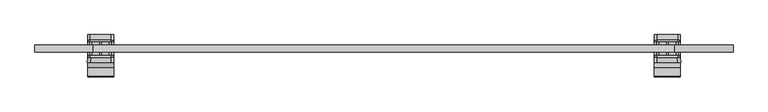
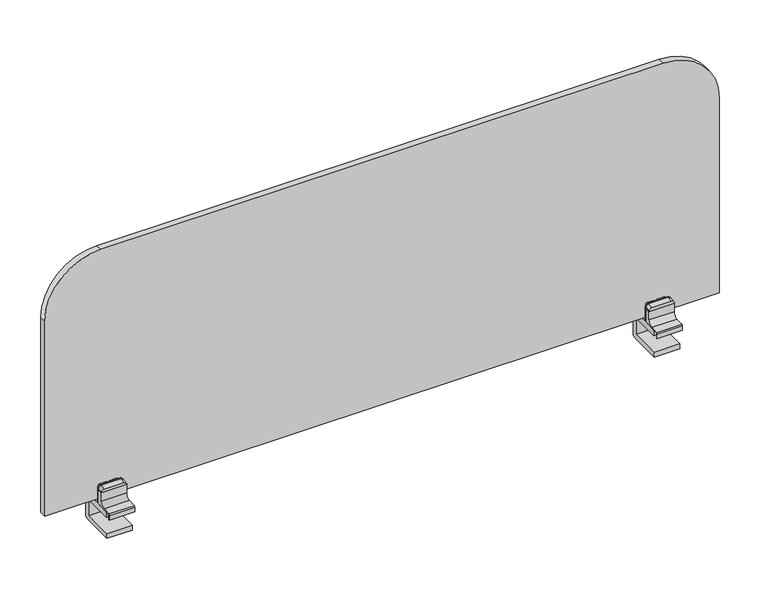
"""IFC4 building model written with IfcOpenShell, lengths in millimetres: furniture geometry, Logos Echopanel Screen_Type 1 : Logos Echopanel Screen_Type 1."""

from ifc_helpers import new_model, si_unit, point, frame, frame_2d, origin, place, context, project, spatial, polyline, circle_curve, trimmed, segment, composite_curve, outline, extrude, source, transform, mapped, element, save
from ifc_brep_helpers import plane_surface, cylinder_surface, spline_surface, advanced_brep


def furniture_f6a1e811(model_context):
    return source(origin(), model_context, "Body", "SolidModel", [
        extrude(outline(composite_curve([segment(polyline([(52.0000237, 489.1498688), (52.0000237, 505.4500366), (75.0151085, 505.4500366)]), True, "CONTINUOUS"), segment(trimmed(circle_curve(frame_2d((75.0151085, 501.4651707)), 3.9848659), [point((75.0151085, 505.4500366))], [point((78.9999744, 501.4651707))], False, "CARTESIAN"), True, "CONTINUOUS"), segment(polyline([(78.9999744, 501.4651707), (78.9999744, 489.1498688), (52.0000237, 489.1498688)]), True, "CONTINUOUS")], self_intersect=False)), frame((0.0, 2.9998169, 0.0), z_axis=(0.0, 1.0, 0.0), x_axis=(0.0, 0.0, 1.0)), (0.0, 0.0, 1.0), 6.0007965),
        extrude(outline(composite_curve([segment(polyline([(52.0000237, 484.8501312), (78.9999744, 484.8501312), (78.9999744, 472.5357586)]), True, "CONTINUOUS"), segment(trimmed(circle_curve(frame_2d((75.0141792, 472.5357586)), 3.9857953), [point((78.9999744, 472.5357586))], [point((75.0141792, 468.5499634))], False, "CARTESIAN"), True, "CONTINUOUS"), segment(polyline([(75.0141792, 468.5499634), (52.0000237, 468.5499634), (52.0000237, 484.8501312)]), True, "CONTINUOUS")], self_intersect=False)), frame((0.0, 2.9998169, 0.0), z_axis=(0.0, 1.0, 0.0), x_axis=(0.0, 0.0, 1.0)), (0.0, 0.0, 1.0), 6.0007965),
        extrude(outline(composite_curve([segment(polyline([(52.0000237, 489.1498688), (52.0000237, 505.4500366), (75.0151085, 505.4500366)]), True, "CONTINUOUS"), segment(trimmed(circle_curve(frame_2d((75.0151085, 501.4651707)), 3.9848659), [point((75.0151085, 505.4500366))], [point((78.9999744, 501.4651707))], False, "CARTESIAN"), True, "CONTINUOUS"), segment(polyline([(78.9999744, 501.4651707), (78.9999744, 489.1498688), (52.0000237, 489.1498688)]), True, "CONTINUOUS")], self_intersect=False)), frame((0.0, 20.999881, 0.0), z_axis=(0.0, 1.0, 0.0), x_axis=(0.0, 0.0, 1.0)), (0.0, 0.0, 1.0), 6.0007965),
        extrude(outline(composite_curve([segment(polyline([(52.0000237, 484.8501312), (78.9999744, 484.8501312), (78.9999744, 472.5357586)]), True, "CONTINUOUS"), segment(trimmed(circle_curve(frame_2d((75.0141792, 472.5357586)), 3.9857953), [point((78.9999744, 472.5357586))], [point((75.0141792, 468.5499634))], False, "CARTESIAN"), True, "CONTINUOUS"), segment(polyline([(75.0141792, 468.5499634), (52.0000237, 468.5499634), (52.0000237, 484.8501312)]), True, "CONTINUOUS")], self_intersect=False)), frame((0.0, 20.999881, 0.0), z_axis=(0.0, 1.0, 0.0), x_axis=(0.0, 0.0, 1.0)), (0.0, 0.0, 1.0), 6.0007965),
        extrude(outline(composite_curve([segment(trimmed(circle_curve(frame_2d((77.9712419, 469.2789322)), 4.0287674), [point((82.0000093, 469.2789322))], [point((77.9712419, 465.2501648))], False, "CARTESIAN"), True, "CONTINUOUS"), segment(polyline([(77.9712419, 465.2501648), (52.0000237, 465.2501648), (52.0000237, 508.7498352), (77.9724863, 508.7498352)]), True, "CONTINUOUS"), segment(trimmed(circle_curve(frame_2d((77.9724863, 504.7223122)), 4.0275231), [point((77.9724863, 508.7498352))], [point((82.0000093, 504.7223122))], False, "CARTESIAN"), True, "CONTINUOUS"), segment(polyline([(82.0000093, 504.7223122), (82.0000093, 469.2789322)]), True, "CONTINUOUS")], self_intersect=False)), frame((0.0, 0.0, 0.0), z_axis=(0.0, 1.0, 0.0), x_axis=(0.0, 0.0, 1.0)), (0.0, 0.0, 1.0), 2.9998169),
        extrude(outline(composite_curve([segment(trimmed(circle_curve(frame_2d((77.9712419, 469.2789322)), 4.0287674), [point((82.0000093, 469.2789322))], [point((77.9712419, 465.2501648))], False, "CARTESIAN"), True, "CONTINUOUS"), segment(polyline([(77.9712419, 465.2501648), (52.0000237, 465.2501648), (52.0000237, 508.7498352), (77.9724863, 508.7498352)]), True, "CONTINUOUS"), segment(trimmed(circle_curve(frame_2d((77.9724863, 504.7223122)), 4.0275231), [point((77.9724863, 508.7498352))], [point((82.0000093, 504.7223122))], False, "CARTESIAN"), True, "CONTINUOUS"), segment(polyline([(82.0000093, 504.7223122), (82.0000093, 469.2789322)]), True, "CONTINUOUS")], self_intersect=False)), frame((0.0, 27.0006775, 0.0), z_axis=(0.0, 1.0, 0.0), x_axis=(0.0, 0.0, 1.0)), (0.0, 0.0, 1.0), 2.9998169),
        advanced_brep(
        [(464.5002106, 0.0, 77.500284), (469.4999054, 0.0, 82.4999788), (504.3790264, 0.0, 82.4999788), (509.5009521, 0.0, 77.3780531), (509.5009521, 0.0, 75.3780298), (464.5002106, 0.0, 75.3780298), (464.5002106, -8.9994507, 75.3780298), (509.622093, -8.9994507, 75.3780298), (504.5000946, -8.9994507, 80.5000282), (469.622209, -8.9994507, 80.5000282)],
        [
            (0, 1, circle_curve(frame((469.4999054, 0.0, 77.500284), z_axis=(0.0, 1.0, 0.0), x_axis=(0.0, 0.0, 1.0)), 4.9996948)),
            (1, 2),
            (2, 3, circle_curve(frame((504.3790264, 0.0, 77.3780531), z_axis=(0.0, 1.0, 0.0), x_axis=(0.0, 0.0, 1.0)), 5.1219257)),
            (3, 4),
            (4, 5),
            (5, 0),
            (6, 7),
            (7, 8, circle_curve(frame((504.5000946, -8.9994507, 75.3780298), z_axis=(0.0, -1.0, 0.0), x_axis=(0.0, 0.0, 1.0)), 5.1219984)),
            (8, 9),
            (9, 6, circle_curve(frame((469.622209, -8.9994507, 75.3780298), z_axis=(0.0, -1.0, 0.0), x_axis=(0.0, 0.0, 1.0)), 5.1219984)),
            (5, 6),
            (6, 0),
            (4, 7),
            (3, 7),
            (2, 8),
            (1, 9),
        ],
        [
            plane_surface(frame((486.9802095, 0.0, 78.4390591), z_axis=(0.0, 1.0, 0.0), x_axis=(1.0, 0.0, 0.0))),
            plane_surface(frame((487.0611518, -8.9994507, 77.939029), z_axis=(0.0, -1.0, 0.0), x_axis=(1.0, 0.0, 0.0))),
            plane_surface(frame((464.5002106, -8.9994507, 75.3780298), z_axis=(-1.0, 0.0, 0.0), x_axis=(0.0, 0.0, -1.0))),
            plane_surface(frame((487.0611518, -8.9994507, 75.3780298), z_axis=(0.0, 0.0, -1.0), x_axis=(1.0, 0.0, 0.0))),
            plane_surface(frame((509.622093, -8.9994507, 75.3780298), z_axis=(0.9999094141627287, 0.013459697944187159, 0.0), x_axis=(0.0, 0.0, 1.0))),
            spline_surface(1, 2, [[(509.622093, -8.9994507, 75.3780298), (509.622093, -8.9994507, 80.50002819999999), (504.5000946, -8.9994507, 80.5000282)], [(509.5009521, 0.0, 77.3780531), (509.5009521, 0.0, 82.49997880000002), (504.3790264, 0.0, 82.4999788)]], [2, 2], [3, 3], [0.0, 1.0], [0.0, 1.0], weights=[[1.0, 0.7071067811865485, 1.0], [1.0, 0.7071067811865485, 1.0]]),
            plane_surface(frame((487.0611518, -8.9994507, 80.5000282), z_axis=(0.0, -0.21693796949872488, 0.9761853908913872), x_axis=(-1.0, 0.0, 0.0))),
            spline_surface(1, 2, [[(469.622209, -8.9994507, 80.5000282), (464.5002106, -8.9994507, 80.50002820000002), (464.5002106, -8.9994507, 75.3780298)], [(469.4999054, 0.0, 82.4999788), (464.5002106, 0.0, 82.49997880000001), (464.5002106, 0.0, 77.500284)]], [2, 2], [3, 3], [0.0, 1.0], [0.0, 1.0], weights=[[1.0, 0.7071067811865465, 1.0], [1.0, 0.7071067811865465, 1.0]]),
        ],
        [
            (0, [[1, 2, 3, 4, 5, 6]]),
            (1, [[7, 8, 9, 10]]),
            (2, [[11, 12, -6]]),
            (3, [[-11, -5, 13, -7]]),
            (4, [[14, -13, -4]]),
            (5, [[-14, -3, 15, -8]]),
            (6, [[-15, -2, 16, -9]]),
            (7, [[-16, -1, -12, -10]]),
        ],
    ),
        extrude(outline(composite_curve([segment(polyline([(0.0, 50.7870163), (-32.4991791, 48.4655726), (-32.4991791, 39.0037966), (-33.499118, 39.0037966), (-33.499118, 47.5292846)]), True, "CONTINUOUS"), segment(trimmed(circle_curve(frame_2d((-31.4934974, 47.5292846)), 2.0056206), [point((-33.499118, 47.5292846))], [point((-31.6363818, 49.529809))], False, "CARTESIAN"), True, "CONTINUOUS"), segment(polyline([(-31.6363818, 49.529809), (-17.3395026, 50.550942)]), True, "CONTINUOUS"), segment(trimmed(circle_curve(frame_2d((-17.9792408, 59.507915)), 8.9797902), [point((-17.3395026, 50.550942))], [point((-8.9994507, 59.507915))], True, "CARTESIAN"), True, "CONTINUOUS"), segment(polyline([(-8.9994507, 59.507915), (-8.9994507, 75.3780298), (0.0, 75.3780298), (0.0, 50.7870163)]), True, "CONTINUOUS")], self_intersect=False)), frame((464.5002106, 0.0, 0.0), z_axis=(1.0, 0.0, 0.0), x_axis=(0.0, 1.0, 0.0)), (0.0, 0.0, 1.0), 45.0007416),
        advanced_brep(
        [(464.5002106, 30.0004944, 52.0000237), (464.5002106, 30.0004944, 77.6069537), (464.5002106, 38.9999451, 77.6069537), (464.5002106, 38.9999451, 2.0000233), (464.5002106, 30.0004944, 0.0), (464.5002106, -25.9995758, 0.0), (464.5002106, -25.9995758, 9.000032), (464.5002106, 30.0004944, 9.000032), (464.5002106, 30.0004944, 39.0000177), (464.5002106, -23.9996979, 39.0000177), (464.5002106, -23.9996979, 47.9999771), (509.5009521, 38.9999451, 2.0000233), (509.5009521, 38.9999451, 77.4991213), (509.5009521, 30.0004944, 77.4991213), (509.5009521, 30.0004944, 52.0000237), (509.5009521, -23.9996979, 47.9999771), (509.5009521, -23.9996979, 39.0000177), (509.5009521, 30.0004944, 39.0000177), (509.5009521, 30.0004944, 9.000032), (509.5009521, -25.9995758, 9.000032), (509.5009521, -25.9995758, 0.0), (509.5009521, 30.0004944, 0.0), (469.4999054, 38.9999451, 82.4999788), (469.4999054, 30.0004944, 82.4999788), (504.5000946, 30.0004944, 82.4999788), (504.5000946, 38.9999451, 82.4999788)],
        [
            (0, 1),
            (1, 2),
            (2, 3),
            (3, 4),
            (4, 5),
            (5, 6),
            (6, 7),
            (7, 8),
            (8, 9),
            (9, 10),
            (10, 0),
            (11, 12),
            (12, 13),
            (13, 14),
            (14, 15),
            (15, 16),
            (16, 17),
            (17, 18),
            (18, 19),
            (19, 20),
            (20, 21),
            (21, 11),
            (22, 23),
            (23, 24),
            (24, 25),
            (25, 22),
            (13, 24, circle_curve(frame((504.5000946, 30.0004944, 77.4991213), z_axis=(0.0, -1.0, 0.0), x_axis=(-1.0, 0.0, 0.0)), 5.0008575)),
            (23, 1, circle_curve(frame((469.4999054, 30.0004944, 77.4991213), z_axis=(0.0, -1.0, 0.0), x_axis=(-1.0, 0.0, 0.0)), 5.0008575)),
            (0, 14),
            (10, 15),
            (9, 16),
            (8, 17),
            (7, 18),
            (6, 19),
            (5, 20),
            (4, 21),
            (3, 11),
            (2, 22, circle_curve(frame((469.4999054, 38.9999451, 77.4991213), z_axis=(0.0, 1.0, 0.0), x_axis=(-1.0, 0.0, 0.0)), 5.0008575)),
            (25, 12, circle_curve(frame((504.5000946, 38.9999451, 77.4991213), z_axis=(0.0, 1.0, 0.0), x_axis=(-1.0, 0.0, 0.0)), 5.0008575)),
        ],
        [
            plane_surface(frame((464.5002106, 30.0004944, 82.4999788), z_axis=(-1.0, 0.0, 0.0), x_axis=(0.0, -1.0, 0.0))),
            plane_surface(frame((509.5009521, 30.0004944, 82.4999788), z_axis=(1.0, 0.0, 0.0), x_axis=(0.0, 1.0, 0.0))),
            plane_surface(frame((464.5002106, 38.9999451, 82.4999788), z_axis=(0.0, 0.0, 1.0), x_axis=(1.0, 0.0, 0.0))),
            plane_surface(frame((464.5002106, 30.0004944, 82.4999788), z_axis=(0.0, -1.0, 0.0), x_axis=(1.0, 0.0, 0.0))),
            plane_surface(frame((464.5002106, 30.0004944, 52.0000237), z_axis=(0.0, -0.07387227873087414, 0.9972677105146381), x_axis=(1.0, 0.0, 0.0))),
            plane_surface(frame((464.5002106, -23.9996979, 47.9999771), z_axis=(0.0, -1.0, 0.0), x_axis=(1.0, 0.0, 0.0))),
            plane_surface(frame((464.5002106, -23.9996979, 39.0000177), z_axis=(0.0, 0.0, -1.0), x_axis=(1.0, 0.0, 0.0))),
            plane_surface(frame((464.5002106, 30.0004944, 39.0000177), z_axis=(0.0, -1.0, 0.0), x_axis=(1.0, 0.0, 0.0))),
            plane_surface(frame((464.5002106, 30.0004944, 9.000032), z_axis=(0.0, 0.0, 1.0), x_axis=(1.0, 0.0, 0.0))),
            plane_surface(frame((464.5002106, -25.9995758, 9.000032), z_axis=(0.0, -1.0, 0.0), x_axis=(1.0, 0.0, 0.0))),
            plane_surface(frame((464.5002106, -25.9995758, 0.0), z_axis=(0.0, 0.0, -1.0), x_axis=(1.0, 0.0, 0.0))),
            plane_surface(frame((464.5002106, 30.0004944, 0.0), z_axis=(0.0, 0.216945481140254, -0.97618372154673), x_axis=(1.0, 0.0, 0.0))),
            plane_surface(frame((464.5002106, 38.9999451, 2.0000233), z_axis=(0.0, 1.0, 0.0), x_axis=(1.0, 0.0, 0.0))),
            cylinder_surface(frame((504.5000946, 45.2008459, 77.4991213), z_axis=(0.0, 1.0, 0.0), x_axis=(-1.0, 0.0, 0.0)), 5.0008575),
            cylinder_surface(frame((469.4999054, -33.499118, 77.4991213), z_axis=(0.0, 1.0, 0.0), x_axis=(-1.0, 0.0, 0.0)), 5.0008575),
        ],
        [
            (0, [[1, 2, 3, 4, 5, 6, 7, 8, 9, 10, 11]]),
            (1, [[12, 13, 14, 15, 16, 17, 18, 19, 20, 21, 22]]),
            (2, [[23, 24, 25, 26]]),
            (3, [[-14, 27, -24, 28, -1, 29]]),
            (4, [[30, -15, -29, -11]]),
            (5, [[31, -16, -30, -10]]),
            (6, [[32, -17, -31, -9]]),
            (7, [[33, -18, -32, -8]]),
            (8, [[34, -19, -33, -7]]),
            (9, [[35, -20, -34, -6]]),
            (10, [[36, -21, -35, -5]]),
            (11, [[37, -22, -36, -4]]),
            (12, [[-3, 38, -26, 39, -12, -37]]),
            (13, [[-39, -25, -27, -13]]),
            (14, [[-28, -23, -38, -2]]),
        ],
    ),
        extrude(outline(composite_curve([segment(polyline([(52.0000237, -489.1498688), (78.9999744, -489.1498688), (78.9999744, -501.4651707)]), True, "CONTINUOUS"), segment(trimmed(circle_curve(frame_2d((75.0151085, -501.4651707)), 3.9848659), [point((78.9999744, -501.4651707))], [point((75.0151085, -505.4500366))], False, "CARTESIAN"), True, "CONTINUOUS"), segment(polyline([(75.0151085, -505.4500366), (52.0000237, -505.4500366), (52.0000237, -489.1498688)]), True, "CONTINUOUS")], self_intersect=False)), frame((0.0, 2.9998169, 0.0), z_axis=(0.0, 1.0, 0.0), x_axis=(0.0, 0.0, 1.0)), (0.0, 0.0, 1.0), 6.0007965),
        extrude(outline(composite_curve([segment(polyline([(52.0000237, -484.8501312), (52.0000237, -468.5499634), (75.0141792, -468.5499634)]), True, "CONTINUOUS"), segment(trimmed(circle_curve(frame_2d((75.0141792, -472.5357586)), 3.9857953), [point((75.0141792, -468.5499634))], [point((78.9999744, -472.5357586))], False, "CARTESIAN"), True, "CONTINUOUS"), segment(polyline([(78.9999744, -472.5357586), (78.9999744, -484.8501312), (52.0000237, -484.8501312)]), True, "CONTINUOUS")], self_intersect=False)), frame((0.0, 2.9998169, 0.0), z_axis=(0.0, 1.0, 0.0), x_axis=(0.0, 0.0, 1.0)), (0.0, 0.0, 1.0), 6.0007965),
        extrude(outline(composite_curve([segment(polyline([(52.0000237, -489.1498688), (78.9999744, -489.1498688), (78.9999744, -501.4651707)]), True, "CONTINUOUS"), segment(trimmed(circle_curve(frame_2d((75.0151085, -501.4651707)), 3.9848659), [point((78.9999744, -501.4651707))], [point((75.0151085, -505.4500366))], False, "CARTESIAN"), True, "CONTINUOUS"), segment(polyline([(75.0151085, -505.4500366), (52.0000237, -505.4500366), (52.0000237, -489.1498688)]), True, "CONTINUOUS")], self_intersect=False)), frame((0.0, 20.999881, 0.0), z_axis=(0.0, 1.0, 0.0), x_axis=(0.0, 0.0, 1.0)), (0.0, 0.0, 1.0), 6.0007965),
        extrude(outline(composite_curve([segment(polyline([(52.0000237, -484.8501312), (52.0000237, -468.5499634), (75.0141792, -468.5499634)]), True, "CONTINUOUS"), segment(trimmed(circle_curve(frame_2d((75.0141792, -472.5357586)), 3.9857953), [point((75.0141792, -468.5499634))], [point((78.9999744, -472.5357586))], False, "CARTESIAN"), True, "CONTINUOUS"), segment(polyline([(78.9999744, -472.5357586), (78.9999744, -484.8501312), (52.0000237, -484.8501312)]), True, "CONTINUOUS")], self_intersect=False)), frame((0.0, 20.999881, 0.0), z_axis=(0.0, 1.0, 0.0), x_axis=(0.0, 0.0, 1.0)), (0.0, 0.0, 1.0), 6.0007965),
        extrude(outline(composite_curve([segment(polyline([(82.0000093, -469.2789322), (82.0000093, -504.7223122)]), True, "CONTINUOUS"), segment(trimmed(circle_curve(frame_2d((77.9724863, -504.7223122)), 4.0275231), [point((82.0000093, -504.7223122))], [point((77.9724863, -508.7498352))], False, "CARTESIAN"), True, "CONTINUOUS"), segment(polyline([(77.9724863, -508.7498352), (52.0000237, -508.7498352), (52.0000237, -465.2501648), (77.9712419, -465.2501648)]), True, "CONTINUOUS"), segment(trimmed(circle_curve(frame_2d((77.9712419, -469.2789322)), 4.0287674), [point((77.9712419, -465.2501648))], [point((82.0000093, -469.2789322))], False, "CARTESIAN"), True, "CONTINUOUS")], self_intersect=False)), frame((0.0, 0.0, 0.0), z_axis=(0.0, 1.0, 0.0), x_axis=(0.0, 0.0, 1.0)), (0.0, 0.0, 1.0), 2.9998169),
        extrude(outline(composite_curve([segment(polyline([(82.0000093, -469.2789322), (82.0000093, -504.7223122)]), True, "CONTINUOUS"), segment(trimmed(circle_curve(frame_2d((77.9724863, -504.7223122)), 4.0275231), [point((82.0000093, -504.7223122))], [point((77.9724863, -508.7498352))], False, "CARTESIAN"), True, "CONTINUOUS"), segment(polyline([(77.9724863, -508.7498352), (52.0000237, -508.7498352), (52.0000237, -465.2501648), (77.9712419, -465.2501648)]), True, "CONTINUOUS"), segment(trimmed(circle_curve(frame_2d((77.9712419, -469.2789322)), 4.0287674), [point((77.9712419, -465.2501648))], [point((82.0000093, -469.2789322))], False, "CARTESIAN"), True, "CONTINUOUS")], self_intersect=False)), frame((0.0, 27.0006775, 0.0), z_axis=(0.0, 1.0, 0.0), x_axis=(0.0, 0.0, 1.0)), (0.0, 0.0, 1.0), 2.9998169),
        advanced_brep(
        [(-464.5002106, 0.0, 77.500284), (-464.5002106, 0.0, 75.3780298), (-509.5009521, 0.0, 75.3780298), (-509.5009521, 0.0, 77.3780531), (-504.3790264, 0.0, 82.4999788), (-469.4999054, 0.0, 82.4999788), (-464.5002106, -8.9994507, 75.3780298), (-469.622209, -8.9994507, 80.5000282), (-504.5000946, -8.9994507, 80.5000282), (-509.622093, -8.9994507, 75.3780298)],
        [
            (0, 1),
            (1, 2),
            (2, 3),
            (3, 4, circle_curve(frame((-504.3790264, 0.0, 77.3780531), z_axis=(0.0, 1.0, 0.0), x_axis=(0.0, 0.0, 1.0)), 5.1219257)),
            (4, 5),
            (5, 0, circle_curve(frame((-469.4999054, 0.0, 77.500284), z_axis=(0.0, 1.0, 0.0), x_axis=(0.0, 0.0, 1.0)), 4.9996948)),
            (6, 7, circle_curve(frame((-469.622209, -8.9994507, 75.3780298), z_axis=(0.0, -1.0, 0.0), x_axis=(0.0, 0.0, 1.0)), 5.1219984)),
            (7, 8),
            (8, 9, circle_curve(frame((-504.5000946, -8.9994507, 75.3780298), z_axis=(0.0, -1.0, 0.0), x_axis=(0.0, 0.0, 1.0)), 5.1219984)),
            (9, 6),
            (0, 6),
            (6, 1),
            (9, 2),
            (9, 3),
            (8, 4),
            (7, 5),
        ],
        [
            plane_surface(frame((-486.9802095, 0.0, 78.4390591), z_axis=(0.0, 1.0, 0.0), x_axis=(-1.0, 0.0, 0.0))),
            plane_surface(frame((-487.0611518, -8.9994507, 77.939029), z_axis=(0.0, -1.0, 0.0), x_axis=(-1.0, 0.0, 0.0))),
            plane_surface(frame((-464.5002106, -8.9994507, 75.3780298), z_axis=(1.0, 0.0, 0.0), x_axis=(0.0, 0.0, -1.0))),
            plane_surface(frame((-487.0611518, -8.9994507, 75.3780298), z_axis=(0.0, 0.0, -1.0), x_axis=(-1.0, 0.0, 0.0))),
            plane_surface(frame((-509.622093, -8.9994507, 75.3780298), z_axis=(-0.9999094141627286, 0.013459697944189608, 0.0), x_axis=(0.0, 0.0, 1.0))),
            spline_surface(2, 1, [[(-509.622093, -8.9994507, 75.3780298), (-509.5009521, 0.0, 77.3780531)], [(-509.622093, -8.9994507, 80.50002819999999), (-509.5009521, 0.0, 82.49997880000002)], [(-504.5000946, -8.9994507, 80.5000282), (-504.3790264, 0.0, 82.4999788)]], [3, 3], [2, 2], [0.0, 1.0], [0.0, 1.0], weights=[[1.0, 1.0], [0.7071067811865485, 0.7071067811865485], [1.0, 1.0]]),
            plane_surface(frame((-487.0611518, -8.9994507, 80.5000282), z_axis=(0.0, -0.21693796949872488, 0.9761853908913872), x_axis=(1.0, 0.0, 0.0))),
            spline_surface(2, 1, [[(-469.622209, -8.9994507, 80.5000282), (-469.4999054, 0.0, 82.4999788)], [(-464.5002106, -8.9994507, 80.50002820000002), (-464.5002106, 0.0, 82.49997880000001)], [(-464.5002106, -8.9994507, 75.3780298), (-464.5002106, 0.0, 77.500284)]], [3, 3], [2, 2], [0.0, 1.0], [0.0, 1.0], weights=[[1.0, 1.0], [0.7071067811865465, 0.7071067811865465], [1.0, 1.0]]),
        ],
        [
            (0, [[1, 2, 3, 4, 5, 6]]),
            (1, [[7, 8, 9, 10]]),
            (2, [[-1, 11, 12]]),
            (3, [[-10, 13, -2, -12]]),
            (4, [[-3, -13, 14]]),
            (5, [[-9, 15, -4, -14]]),
            (6, [[-8, 16, -5, -15]]),
            (7, [[-7, -11, -6, -16]]),
        ],
    ),
        extrude(outline(composite_curve([segment(polyline([(0.0, 50.7870163), (-32.4991791, 48.4655726), (-32.4991791, 39.0037966), (-33.499118, 39.0037966), (-33.499118, 47.5292846)]), True, "CONTINUOUS"), segment(trimmed(circle_curve(frame_2d((-31.4934974, 47.5292846)), 2.0056206), [point((-33.499118, 47.5292846))], [point((-31.6363818, 49.529809))], False, "CARTESIAN"), True, "CONTINUOUS"), segment(polyline([(-31.6363818, 49.529809), (-17.3395026, 50.550942)]), True, "CONTINUOUS"), segment(trimmed(circle_curve(frame_2d((-17.9792408, 59.507915)), 8.9797902), [point((-17.3395026, 50.550942))], [point((-8.9994507, 59.507915))], True, "CARTESIAN"), True, "CONTINUOUS"), segment(polyline([(-8.9994507, 59.507915), (-8.9994507, 75.3780298), (0.0, 75.3780298), (0.0, 50.7870163)]), True, "CONTINUOUS")], self_intersect=False)), frame((-509.5009521, 0.0, 0.0), z_axis=(1.0, 0.0, 0.0), x_axis=(0.0, 1.0, 0.0)), (0.0, 0.0, 1.0), 45.0007416),
        advanced_brep(
        [(-464.5002106, 30.0004944, 52.0000237), (-464.5002106, -23.9996979, 47.9999771), (-464.5002106, -23.9996979, 39.0000177), (-464.5002106, 30.0004944, 39.0000177), (-464.5002106, 30.0004944, 9.000032), (-464.5002106, -25.9995758, 9.000032), (-464.5002106, -25.9995758, 0.0), (-464.5002106, 30.0004944, 0.0), (-464.5002106, 38.9999451, 2.0000233), (-464.5002106, 38.9999451, 77.6069537), (-464.5002106, 30.0004944, 77.6069537), (-509.5009521, 38.9999451, 2.0000233), (-509.5009521, 30.0004944, 0.0), (-509.5009521, -25.9995758, 0.0), (-509.5009521, -25.9995758, 9.000032), (-509.5009521, 30.0004944, 9.000032), (-509.5009521, 30.0004944, 39.0000177), (-509.5009521, -23.9996979, 39.0000177), (-509.5009521, -23.9996979, 47.9999771), (-509.5009521, 30.0004944, 52.0000237), (-509.5009521, 30.0004944, 77.4991213), (-509.5009521, 38.9999451, 77.4991213), (-469.4999054, 38.9999451, 82.4999788), (-504.5000946, 38.9999451, 82.4999788), (-504.5000946, 30.0004944, 82.4999788), (-469.4999054, 30.0004944, 82.4999788)],
        [
            (0, 1),
            (1, 2),
            (2, 3),
            (3, 4),
            (4, 5),
            (5, 6),
            (6, 7),
            (7, 8),
            (8, 9),
            (9, 10),
            (10, 0),
            (11, 12),
            (12, 13),
            (13, 14),
            (14, 15),
            (15, 16),
            (16, 17),
            (17, 18),
            (18, 19),
            (19, 20),
            (20, 21),
            (21, 11),
            (22, 23),
            (23, 24),
            (24, 25),
            (25, 22),
            (19, 0),
            (10, 25, circle_curve(frame((-469.4999054, 30.0004944, 77.4991213), z_axis=(0.0, -1.0, 0.0), x_axis=(1.0, 0.0, 0.0)), 5.0008575)),
            (24, 20, circle_curve(frame((-504.5000946, 30.0004944, 77.4991213), z_axis=(0.0, -1.0, 0.0), x_axis=(1.0, 0.0, 0.0)), 5.0008575)),
            (18, 1),
            (17, 2),
            (16, 3),
            (15, 4),
            (14, 5),
            (13, 6),
            (12, 7),
            (11, 8),
            (21, 23, circle_curve(frame((-504.5000946, 38.9999451, 77.4991213), z_axis=(0.0, 1.0, 0.0), x_axis=(1.0, 0.0, 0.0)), 5.0008575)),
            (22, 9, circle_curve(frame((-469.4999054, 38.9999451, 77.4991213), z_axis=(0.0, 1.0, 0.0), x_axis=(1.0, 0.0, 0.0)), 5.0008575)),
        ],
        [
            plane_surface(frame((-464.5002106, 30.0004944, 82.4999788), z_axis=(1.0, 0.0, 0.0), x_axis=(0.0, -1.0, 0.0))),
            plane_surface(frame((-509.5009521, 30.0004944, 82.4999788), z_axis=(-1.0, 0.0, 0.0), x_axis=(0.0, 1.0, 0.0))),
            plane_surface(frame((-464.5002106, 38.9999451, 82.4999788), z_axis=(0.0, 0.0, 1.0), x_axis=(-1.0, 0.0, 0.0))),
            plane_surface(frame((-464.5002106, 30.0004944, 82.4999788), z_axis=(0.0, -1.0, 0.0), x_axis=(-1.0, 0.0, 0.0))),
            plane_surface(frame((-464.5002106, 30.0004944, 52.0000237), z_axis=(0.0, -0.07387227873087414, 0.9972677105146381), x_axis=(-1.0, 0.0, 0.0))),
            plane_surface(frame((-464.5002106, -23.9996979, 47.9999771), z_axis=(0.0, -1.0, 0.0), x_axis=(-1.0, 0.0, 0.0))),
            plane_surface(frame((-464.5002106, -23.9996979, 39.0000177), z_axis=(0.0, 0.0, -1.0), x_axis=(-1.0, 0.0, 0.0))),
            plane_surface(frame((-464.5002106, 30.0004944, 39.0000177), z_axis=(0.0, -1.0, 0.0), x_axis=(-1.0, 0.0, 0.0))),
            plane_surface(frame((-464.5002106, 30.0004944, 9.000032), z_axis=(0.0, 0.0, 1.0), x_axis=(-1.0, 0.0, 0.0))),
            plane_surface(frame((-464.5002106, -25.9995758, 9.000032), z_axis=(0.0, -1.0, 0.0), x_axis=(-1.0, 0.0, 0.0))),
            plane_surface(frame((-464.5002106, -25.9995758, 0.0), z_axis=(0.0, 0.0, -1.0), x_axis=(-1.0, 0.0, 0.0))),
            plane_surface(frame((-464.5002106, 30.0004944, 0.0), z_axis=(0.0, 0.216945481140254, -0.97618372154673), x_axis=(-1.0, 0.0, 0.0))),
            plane_surface(frame((-464.5002106, 38.9999451, 2.0000233), z_axis=(0.0, 1.0, 0.0), x_axis=(-1.0, 0.0, 0.0))),
            cylinder_surface(frame((-504.5000946, 45.2008459, 77.4991213), z_axis=(0.0, 1.0, 0.0), x_axis=(1.0, 0.0, 0.0)), 5.0008575),
            cylinder_surface(frame((-469.4999054, -33.499118, 77.4991213), z_axis=(0.0, 1.0, 0.0), x_axis=(1.0, 0.0, 0.0)), 5.0008575),
        ],
        [
            (0, [[1, 2, 3, 4, 5, 6, 7, 8, 9, 10, 11]]),
            (1, [[12, 13, 14, 15, 16, 17, 18, 19, 20, 21, 22]]),
            (2, [[23, 24, 25, 26]]),
            (3, [[27, -11, 28, -25, 29, -20]]),
            (4, [[-1, -27, -19, 30]]),
            (5, [[-2, -30, -18, 31]]),
            (6, [[-3, -31, -17, 32]]),
            (7, [[-4, -32, -16, 33]]),
            (8, [[-5, -33, -15, 34]]),
            (9, [[-6, -34, -14, 35]]),
            (10, [[-7, -35, -13, 36]]),
            (11, [[-8, -36, -12, 37]]),
            (12, [[-37, -22, 38, -23, 39, -9]]),
            (13, [[-21, -29, -24, -38]]),
            (14, [[-10, -39, -26, -28]]),
        ],
    ),
        extrude(outline(composite_curve([segment(polyline([(52.0000237, -600.0), (52.0000237, 600.0), (419.0, 600.0)]), True, "CONTINUOUS"), segment(trimmed(circle_curve(frame_2d((419.0, 500.0)), 100.0), [point((419.0, 600.0))], [point((519.0, 500.0))], False, "CARTESIAN"), True, "CONTINUOUS"), segment(polyline([(519.0, 500.0), (519.0, -500.0)]), True, "CONTINUOUS"), segment(trimmed(circle_curve(frame_2d((419.0, -500.0)), 100.0), [point((519.0, -500.0))], [point((419.0, -600.0))], False, "CARTESIAN"), True, "CONTINUOUS"), segment(polyline([(419.0, -600.0), (52.0000237, -600.0)]), True, "CONTINUOUS")], self_intersect=False)), frame((0.0, 9.0006134, 0.0), z_axis=(0.0, 1.0, 0.0), x_axis=(0.0, 0.0, 1.0)), (0.0, 0.0, 1.0), 12.0),
    ])


if __name__ == "__main__":
    model = new_model("IFC4")
    model_context = context("Model", 3, world=origin())
    ifc_project = project(units=[si_unit("LENGTHUNIT", "METRE", prefix="MILLI")], contexts=[model_context])
    site = spatial("IfcSite", under=ifc_project)
    building = spatial("IfcBuilding", under=site)
    placement = place(None, origin())
    furniture_shape = furniture_f6a1e811(model_context)
    element("IfcFurniture", 1, ObjectType="Logos Echopanel Screen_Type 1 : Logos Echopanel Screen_Type 1", at=placement, inside=building, context=model_context, shape_type="MappedRepresentation", body=[
        mapped(furniture_shape, transform((0.0, 0.0, 0.0), x_axis=(1.0, 0.0, 0.0), y_axis=(0.0, 1.0, 0.0), z_axis=(0.0, 0.0, 1.0))),
    ])
    save(model, "model.ifc")
